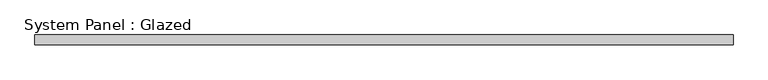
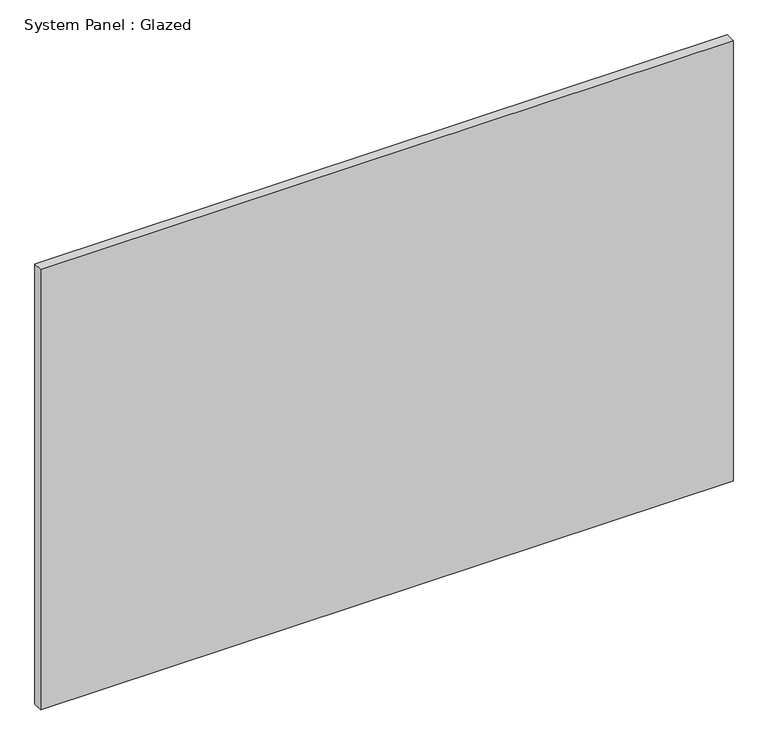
"""IFC4 building model written with IfcOpenShell, lengths in millimetres: plate geometry, System Panel : Glazed."""

from ifc_helpers import new_model, si_unit, origin, origin_with_axes, place, context, project, spatial, polyline, outline, extrude, source, transform, mapped, element, save


def system_panel_glazed_3ed5c639(model_context):
    return source(origin(), model_context, "Body", "SweptSolid", [
        extrude(outline(polyline([(882.65, 19.05), (-882.65, 19.05), (-882.65, 44.45), (882.65, 44.45), (882.65, 19.05)])), origin_with_axes(), (0.0, 0.0, 1.0), 1187.45),
    ])


if __name__ == "__main__":
    model = new_model("IFC4")
    model_context = context("Model", 3, world=origin())
    ifc_project = project(units=[si_unit("LENGTHUNIT", "METRE", prefix="MILLI")], contexts=[model_context])
    site = spatial("IfcSite", under=ifc_project)
    building = spatial("IfcBuilding", under=site)
    placement = place(None, origin())
    system_panel_glazed_shape = system_panel_glazed_3ed5c639(model_context)
    element("IfcPlate", 1, ObjectType="System Panel : Glazed", at=placement, inside=building, context=model_context, shape_type="MappedRepresentation", body=[
        mapped(system_panel_glazed_shape, transform((0.0, 0.0, 0.0), x_axis=(1.0, 0.0, 0.0), y_axis=(0.0, 1.0, 0.0), z_axis=(0.0, 0.0, 1.0))),
    ])
    save(model, "model.ifc")
